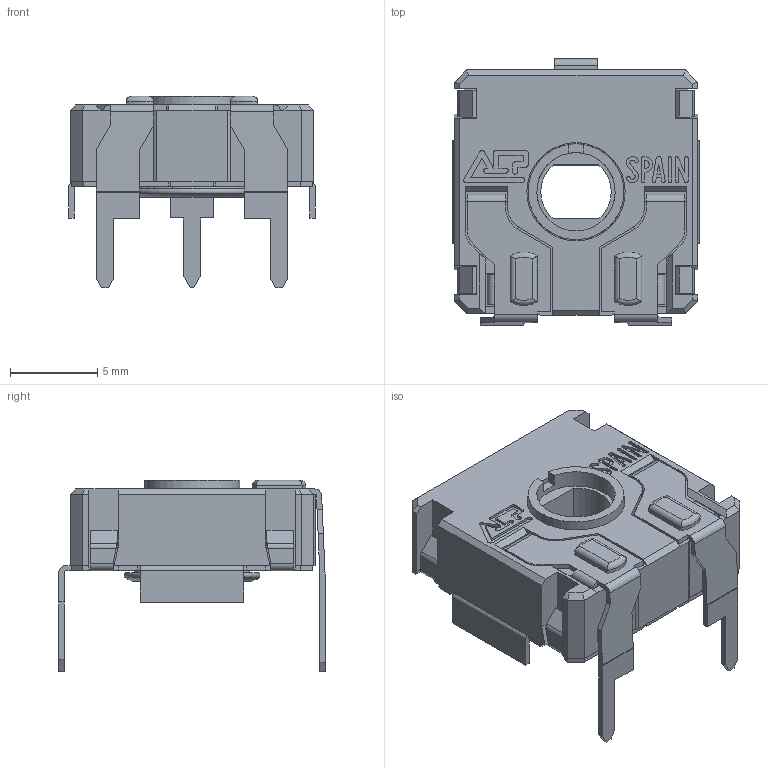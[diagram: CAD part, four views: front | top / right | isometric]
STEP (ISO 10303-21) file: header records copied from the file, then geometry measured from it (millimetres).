
FILE_DESCRIPTION(/* description */ (''),/* implementation_level */ '2;1');
FILE_NAME(/* name */ 'C:\Users\CEM\Desktop\ENVIAR\TRANSICION 3D CATALOGOS\CS14NV15 CFF.stp',/* time_stamp */ '2025-10-24T17:50:52+02:00',/* author */ ('CEM'),/* organization */ (''),/* preprocessor_version */ 'ST-DEVELOPER v17',/* originating_system */ 'Autodesk Inventor 2018',/* authorisation */ '');
FILE_SCHEMA (('AUTOMOTIVE_DESIGN { 1 0 10303 214 3 1 1 }'));
Length unit declared in the file: millimetre
Products named in the file (1): CS14NV15 CFF
Bounding box: 14.15 x 15.3 x 11 mm (x, y, z)
Volume: 559.3 mm3; surface area: 1662.9 mm2
Topology: 1 solids, 3 shells, 722 faces, 2028 edges, 1309 vertices
Faces by surface type: plane 548, cylinder 140, cone 15, bspline 10, torus 9
Full cylindrical faces by diameter (mm): 4.5 x1, 5.5 x1, 5.65 x1, 6.87 x1
Entity records: 24051 total; most frequent: CARTESIAN_POINT 4487, ORIENTED_EDGE 4056, DIRECTION 3774, EDGE_CURVE 2028, LINE 1598, VECTOR 1598, VERTEX_POINT 1309, AXIS2_PLACEMENT_3D 1088
